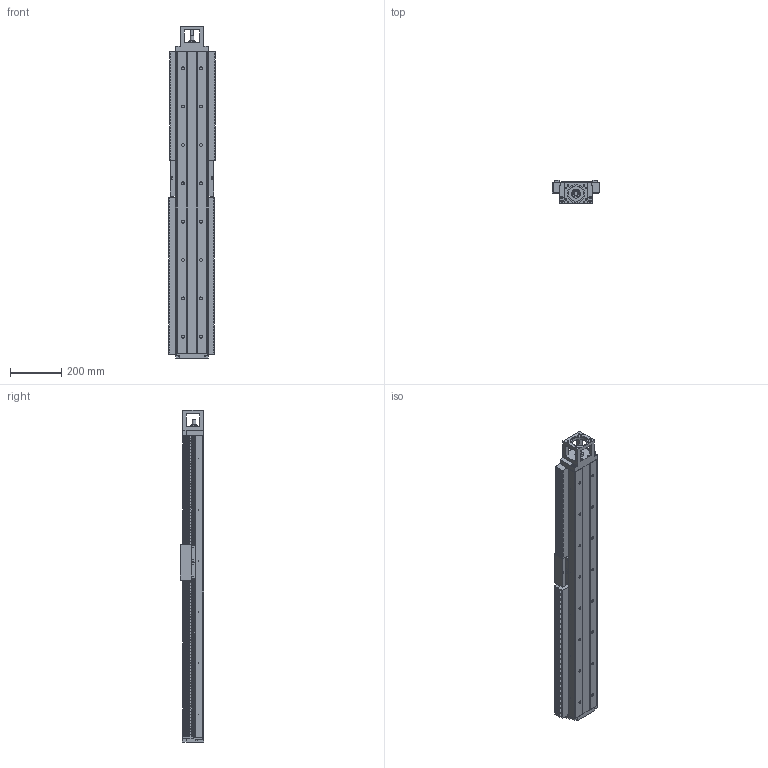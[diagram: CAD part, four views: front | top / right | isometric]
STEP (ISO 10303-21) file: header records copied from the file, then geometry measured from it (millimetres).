
FILE_DESCRIPTION(/* description */ (''),/* implementation_level */ '2;1');
FILE_NAME(/* name */ 'TKK130-1180A1F0B.stp',/* time_stamp */ '2017-01-23T08:20:21+08:00',/* author */ (''),/* organization */ (''),/* preprocessor_version */ 'ST-DEVELOPER v15',/* originating_system */ 'SIEMENS PLM Software NX 8.5',/* authorisation */ '');
FILE_SCHEMA (('AUTOMOTIVE_DESIGN { 1 0 10303 214 3 1 1 1 }'));
Products named in the file (3): 022; 011; TKK130-1180A1F0B
Assembly tree (2 placements, depth 2):
  TKK130-1180A1F0B
    011
    022
Bounding box: 184 x 92 x 1298 mm (x, y, z)
Volume: 12940626.3 mm3; surface area: 1547926.9 mm2
Topology: 5 solids, 51 shells, 2678 faces, 6565 edges, 4006 vertices
Faces by surface type: plane 2179, cylinder 330, cone 129, extrusion 33, bspline 6, torus 1
Full cylindrical faces by diameter (mm): 2.1 x12, 2.5 x8, 3.3 x62, 4.5 x20, 5 x23, 6.6 x10, 6.8 x12, 7 x2, 8 x16, 8.5 x4, 9 x8, 11 x24, 12 x4, 15 x1, 16.3 x1, 17 x18, 17.5 x4, 25 x1, 35 x2, 40 x3, 60.03 x1, 70.03 x1
Entity records: 74795 total; most frequent: CARTESIAN_POINT 14263, ORIENTED_EDGE 11820, DIRECTION 11761, EDGE_CURVE 5910, VECTOR 5025, LINE 4992, VERTEX_POINT 3822, AXIS2_PLACEMENT_3D 3368
